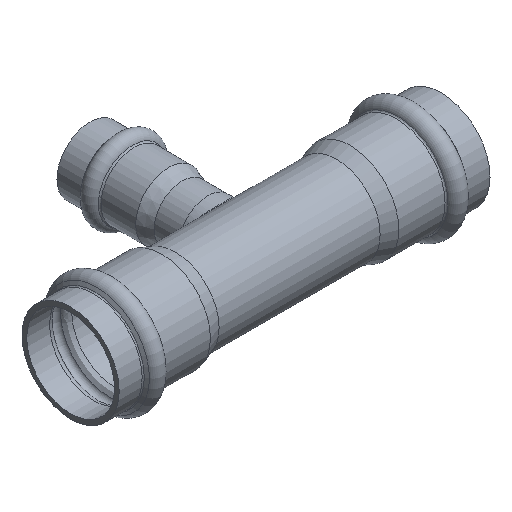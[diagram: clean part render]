
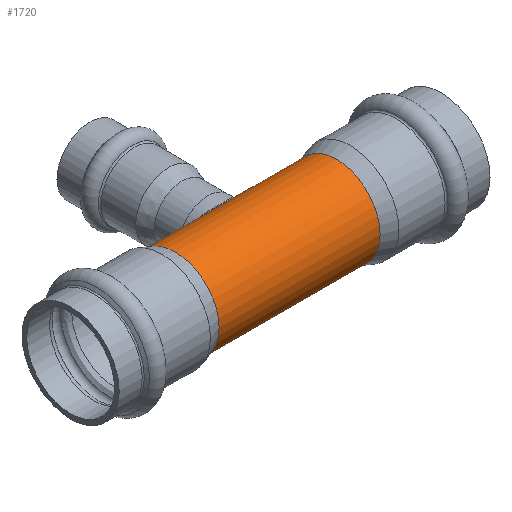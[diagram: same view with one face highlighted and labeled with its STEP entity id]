
A CAD part, isometric view. The second image highlights one B-rep face of the part: STEP entity #1720.
In plain terms, the highlighted cylindrical face has radius 14 mm (diameter 28 mm), a full revolution.
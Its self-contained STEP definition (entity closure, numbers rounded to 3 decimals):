
#1553=CARTESIAN_POINT('',(-59.5,10.435,-9.333));
#1554=VERTEX_POINT('',#1553);
#1616=CARTESIAN_POINT('',(-59.5,10.435,-9.334));
#1617=CARTESIAN_POINT('',(-59.5,10.435,-9.334));
#1618=CARTESIAN_POINT('',(-59.5,10.435,-9.334));
#1619=CARTESIAN_POINT('',(-59.5,10.435,-9.334));
#1620=CARTESIAN_POINT('',(-60.272,10.435,-9.333));
#1621=CARTESIAN_POINT('',(-61.814,10.59,-9.163));
#1622=CARTESIAN_POINT('',(-63.583,11.084,-8.568));
#1623=CARTESIAN_POINT('',(-64.87,11.568,-7.895));
#1624=CARTESIAN_POINT('',(-65.752,11.949,-7.307));
#1625=CARTESIAN_POINT('',(-66.566,12.339,-6.631));
#1626=CARTESIAN_POINT('',(-67.38,12.762,-5.787));
#1627=CARTESIAN_POINT('',(-68.146,13.188,-4.756));
#1628=CARTESIAN_POINT('',(-68.811,13.578,-3.501));
#1629=CARTESIAN_POINT('',(-69.272,13.858,-2.148));
#1630=CARTESIAN_POINT('',(-69.51,14.006,-0.721));
#1631=CARTESIAN_POINT('',(-69.51,14.006,0.724));
#1632=CARTESIAN_POINT('',(-69.191,13.809,2.627));
#1633=CARTESIAN_POINT('',(-68.523,13.402,4.161));
#1634=CARTESIAN_POINT('',(-67.722,12.952,5.327));
#1635=CARTESIAN_POINT('',(-67.135,12.632,6.058));
#1636=CARTESIAN_POINT('',(-66.31,12.208,6.88));
#1637=CARTESIAN_POINT('',(-65.168,11.685,7.729));
#1638=CARTESIAN_POINT('',(-63.91,11.198,8.414));
#1639=CARTESIAN_POINT('',(-62.521,10.783,8.934));
#1640=CARTESIAN_POINT('',(-61.039,10.502,9.259));
#1641=CARTESIAN_POINT('',(-59.494,10.401,9.371));
#1642=CARTESIAN_POINT('',(-57.95,10.503,9.258));
#1643=CARTESIAN_POINT('',(-56.465,10.787,8.93));
#1644=CARTESIAN_POINT('',(-55.086,11.199,8.413));
#1645=CARTESIAN_POINT('',(-53.814,11.693,7.718));
#1646=CARTESIAN_POINT('',(-52.309,12.384,6.594));
#1647=CARTESIAN_POINT('',(-51.277,12.948,5.405));
#1648=CARTESIAN_POINT('',(-50.318,13.5,3.794));
#1649=CARTESIAN_POINT('',(-49.78,13.826,2.463));
#1650=CARTESIAN_POINT('',(-49.49,14.006,0.721));
#1651=CARTESIAN_POINT('',(-49.49,14.006,-0.727));
#1652=CARTESIAN_POINT('',(-49.729,13.858,-2.15));
#1653=CARTESIAN_POINT('',(-50.115,13.623,-3.282));
#1654=CARTESIAN_POINT('',(-50.727,13.261,-4.557));
#1655=CARTESIAN_POINT('',(-51.366,12.898,-5.486));
#1656=CARTESIAN_POINT('',(-52.076,12.525,-6.26));
#1657=CARTESIAN_POINT('',(-52.575,12.272,-6.748));
#1658=CARTESIAN_POINT('',(-53.253,11.947,-7.312));
#1659=CARTESIAN_POINT('',(-54.144,11.562,-7.904));
#1660=CARTESIAN_POINT('',(-55.419,11.084,-8.569));
#1661=CARTESIAN_POINT('',(-57.185,10.591,-9.163));
#1662=CARTESIAN_POINT('',(-58.728,10.435,-9.334));
#1663=CARTESIAN_POINT('',(-59.5,10.435,-9.334));
#1664=B_SPLINE_CURVE_WITH_KNOTS('',3,(#1616,#1617,#1618,#1619,#1620,#1621,#1622,#1623,#1624,#1625,#1626,#1627,#1628,#1629,#1630,#1631,#1632,#1633,#1634,#1635,#1636,#1637,#1638,#1639,#1640,#1641,#1642,#1643,#1644,#1645,#1646,#1647,#1648,#1649,#1650,#1651,#1652,#1653,#1654,#1655,#1656,#1657,#1658,#1659,#1660,#1661,#1662,#1663),.UNSPECIFIED.,.T.,.U.,(4,3,1,1,1,1,1,1,1,1,1,1,1,1,1,1,1,1,1,1,1,1,1,1,1,1,1,1,1,1,1,1,1,1,1,1,1,1,1,1,1,1,1,4),(-5.629,-5.629,-5.428,-5.227,-5.127,-5.026,-4.925,-4.825,-4.691,-4.557,-4.423,-4.289,-4.155,-4.021,-3.753,-3.686,-3.619,-3.485,-3.351,-3.217,-3.083,-2.949,-2.815,-2.681,-2.547,-2.412,-2.278,-2.144,-1.876,-1.832,-1.608,-1.474,-1.34,-1.206,-1.072,-1.005,-0.804,-0.754,-0.704,-0.603,-0.503,-0.402,-0.201,0.),.UNSPECIFIED.);
#1665=EDGE_CURVE('',#1554,#1554,#1664,.T.);
#1690=CARTESIAN_POINT('',(-59.5,0.,0.0));
#1691=DIRECTION('',(1.0,0.,0.0));
#1692=DIRECTION('',(0.0,1.0,0.0));
#1693=AXIS2_PLACEMENT_3D('',#1690,#1691,#1692);
#1694=CYLINDRICAL_SURFACE('',#1693,14.);
#1695=CARTESIAN_POINT('',(-85.34,14.,0.0));
#1696=VERTEX_POINT('',#1695);
#1697=CARTESIAN_POINT('',(-85.34,0.,0.0));
#1698=DIRECTION('',(1.0,0.0,0.0));
#1699=DIRECTION('',(0.0,1.0,0.0));
#1700=AXIS2_PLACEMENT_3D('',#1697,#1698,#1699);
#1701=CIRCLE('',#1700,14.);
#1702=EDGE_CURVE('',#1696,#1696,#1701,.T.);
#1703=ORIENTED_EDGE('',*,*,#1702,.T.);
#1704=EDGE_LOOP('',(#1703));
#1705=FACE_OUTER_BOUND('',#1704,.T.);
#1706=CARTESIAN_POINT('',(-33.66,14.,0.0));
#1707=VERTEX_POINT('',#1706);
#1708=CARTESIAN_POINT('',(-33.66,0.,0.0));
#1709=DIRECTION('',(1.0,0.0,0.0));
#1710=DIRECTION('',(0.0,1.0,0.0));
#1711=AXIS2_PLACEMENT_3D('',#1708,#1709,#1710);
#1712=CIRCLE('',#1711,14.);
#1713=EDGE_CURVE('',#1707,#1707,#1712,.T.);
#1714=ORIENTED_EDGE('',*,*,#1713,.F.);
#1715=EDGE_LOOP('',(#1714));
#1716=FACE_BOUND('',#1715,.T.);
#1717=ORIENTED_EDGE('',*,*,#1665,.F.);
#1718=EDGE_LOOP('',(#1717));
#1719=FACE_BOUND('',#1718,.T.);
#1720=ADVANCED_FACE('',(#1705,#1716,#1719),#1694,.T.);
